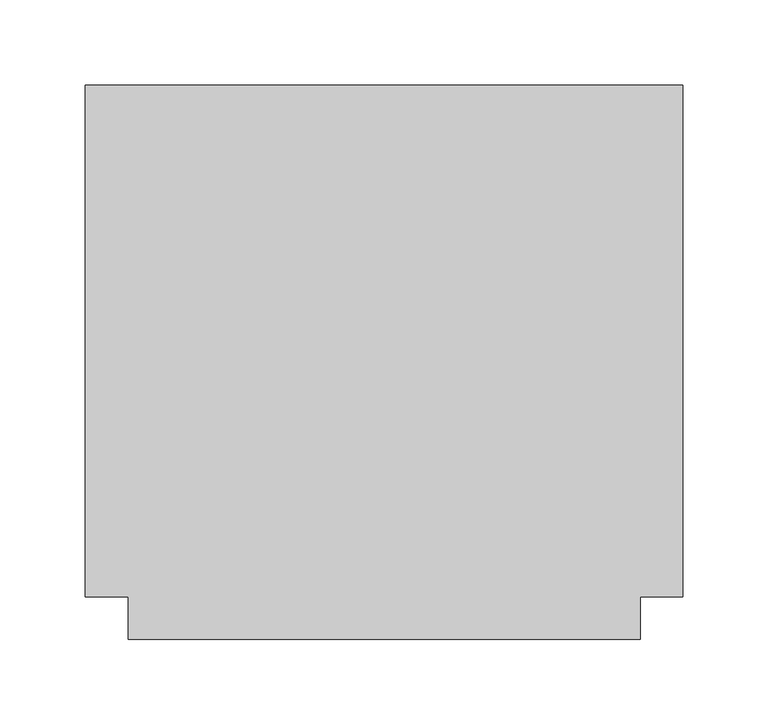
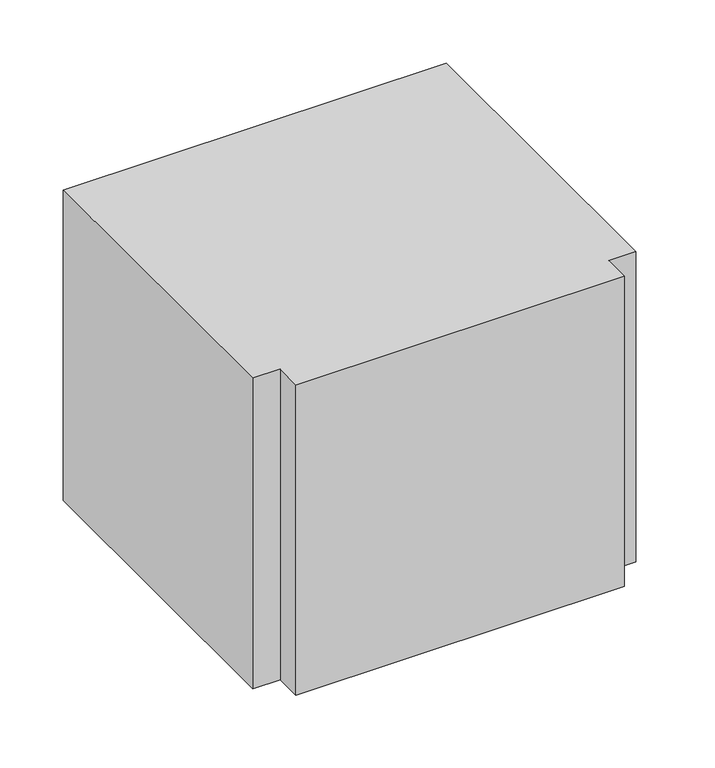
"""IFC4 building model written with IfcOpenShell, lengths in millimetres: duct fitting geometry, M_Тройник прямоугольного сечения : Стандартное."""

from ifc_helpers import new_model, si_unit, frame, origin, place, context, project, spatial, polyline, outline, extrude, source, transform, mapped, element, save


def duct_fitting_2c290df5(model_context):
    return source(origin(), model_context, "Body", "SweptSolid", [
        extrude(outline(polyline([(-175.0, -150.0), (-175.0, 150.0), (175.0, 150.0), (175.0, -150.0), (150.0, -150.0), (150.0, -175.0), (-150.0, -175.0), (-150.0, -150.0), (-175.0, -150.0)])), frame((0.0, 0.0, -150.0), z_axis=(0.0, 0.0, 1.0), x_axis=(1.0, 0.0, 0.0)), (0.0, 0.0, 1.0), 300.0),
    ])


if __name__ == "__main__":
    model = new_model("IFC4")
    model_context = context("Model", 3, world=origin())
    ifc_project = project(units=[si_unit("LENGTHUNIT", "METRE", prefix="MILLI")], contexts=[model_context])
    site = spatial("IfcSite", under=ifc_project)
    building = spatial("IfcBuilding", under=site)
    placement = place(None, origin())
    duct_fitting_shape = duct_fitting_2c290df5(model_context)
    element("IfcDuctFitting", 1, ObjectType="M_Тройник прямоугольного сечения : Стандартное", at=placement, inside=building, context=model_context, shape_type="MappedRepresentation", body=[
        mapped(duct_fitting_shape, transform((0.0, 0.0, 0.0), x_axis=(1.0, 0.0, 0.0), y_axis=(0.0, 1.0, 0.0), z_axis=(0.0, 0.0, 1.0))),
    ])
    save(model, "model.ifc")
